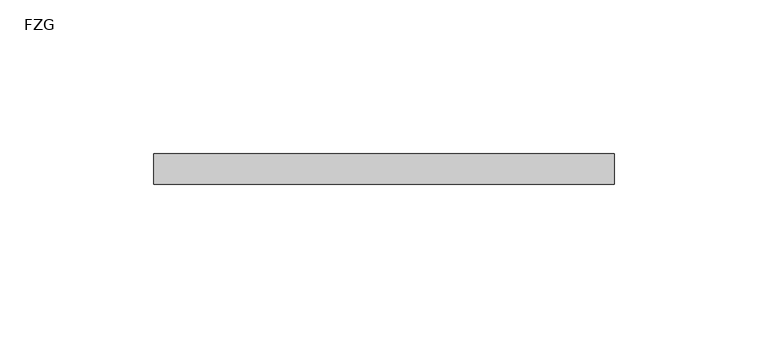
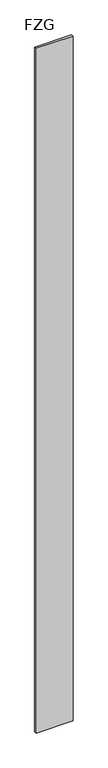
"""IFC4 building model written with IfcOpenShell, lengths in millimetres: plate geometry, Panel-Glass-Teknion-OptosLP : FZG."""

from ifc_helpers import new_model, si_unit, origin, origin_with_axes, place, context, project, spatial, polyline, outline, extrude, source, transform, mapped, element, save


def fzg_a8049be1(model_context):
    return source(origin(), model_context, "Body", "SweptSolid", [
        extrude(outline(polyline([(74.9154035, 5.0038), (74.9154035, -5.0038), (-74.9154035, -5.0038), (-74.9154035, 5.0038), (74.9154035, 5.0038)])), origin_with_axes(), (0.0, 0.0, 1.0), 2948.2093585),
    ])


if __name__ == "__main__":
    model = new_model("IFC4")
    model_context = context("Model", 3, world=origin())
    ifc_project = project(units=[si_unit("LENGTHUNIT", "METRE", prefix="MILLI")], contexts=[model_context])
    site = spatial("IfcSite", under=ifc_project)
    building = spatial("IfcBuilding", under=site)
    placement = place(None, origin())
    fzg_shape = fzg_a8049be1(model_context)
    element("IfcPlate", 1, ObjectType="Panel-Glass-Teknion-OptosLP : FZG", at=placement, inside=building, context=model_context, shape_type="MappedRepresentation", body=[
        mapped(fzg_shape, transform((0.0, 0.0, 0.0), x_axis=(1.0, 0.0, 0.0), y_axis=(0.0, 1.0, 0.0), z_axis=(0.0, 0.0, 1.0))),
    ])
    save(model, "model.ifc")
